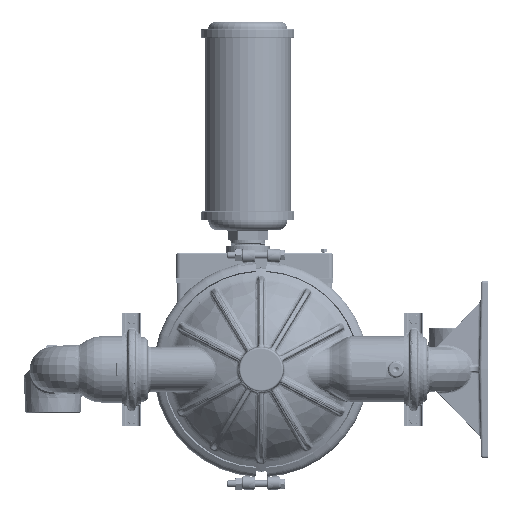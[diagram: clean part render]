
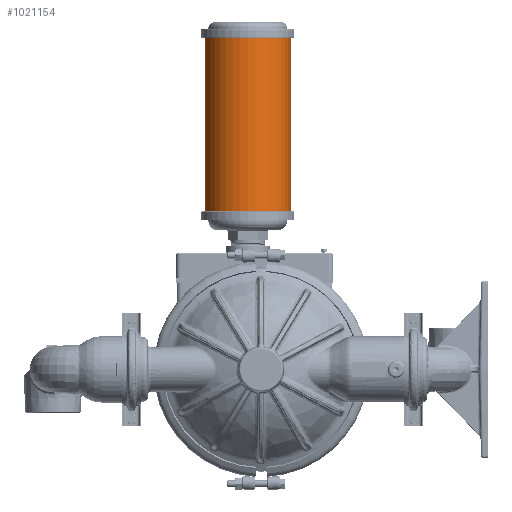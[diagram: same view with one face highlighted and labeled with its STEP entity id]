
A CAD part, left-side view. The second image highlights one B-rep face of the part: STEP entity #1021154.
In plain terms, the highlighted cylindrical face has radius 61.722 mm (diameter 123.444 mm), a partial arc.
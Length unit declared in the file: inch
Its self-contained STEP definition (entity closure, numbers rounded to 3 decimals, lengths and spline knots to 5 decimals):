
#705794=DIRECTION('',(0.,0.,1.));
#705795=VECTOR('',#705794,9.78);
#705796=CARTESIAN_POINT('',(0.,3.18,8.905));
#705797=LINE('',#705796,#705795);
#705798=DIRECTION('',(0.,0.,1.));
#705799=VECTOR('',#705798,9.78);
#705800=CARTESIAN_POINT('',(0.,-1.68,8.905));
#705801=LINE('',#705800,#705799);
#705802=CARTESIAN_POINT('',(0.,0.75,8.905));
#705803=DIRECTION('',(0.,0.,1.));
#705804=DIRECTION('',(0.,1.,0.));
#705805=AXIS2_PLACEMENT_3D('',#705802,#705803,#705804);
#705827=CARTESIAN_POINT('',(0.,0.75,18.685));
#705828=DIRECTION('',(0.,0.,1.));
#705829=DIRECTION('',(0.,1.,0.));
#705830=AXIS2_PLACEMENT_3D('',#705827,#705828,#705829);
#913392=CARTESIAN_POINT('',(0.,3.18,8.905));
#913393=CARTESIAN_POINT('',(0.,3.18,18.685));
#913394=VERTEX_POINT('',#913392);
#913395=VERTEX_POINT('',#913393);
#913396=CARTESIAN_POINT('',(0.,-1.68,8.905));
#913397=CARTESIAN_POINT('',(0.,-1.68,18.685));
#913398=VERTEX_POINT('',#913396);
#913399=VERTEX_POINT('',#913397);
#1021140=CARTESIAN_POINT('',(0.,0.75,20.1725));
#1021141=DIRECTION('',(0.,0.,-1.));
#1021142=DIRECTION('',(0.,-1.,0.));
#1021143=AXIS2_PLACEMENT_3D('',#1021140,#1021141,#1021142);
#1021144=CYLINDRICAL_SURFACE('',#1021143,2.43);
#1021146=ORIENTED_EDGE('',*,*,#1021145,.T.);
#1021148=ORIENTED_EDGE('',*,*,#1021147,.T.);
#1021150=ORIENTED_EDGE('',*,*,#1021149,.F.);
#1021151=ORIENTED_EDGE('',*,*,#1021121,.F.);
#1021152=EDGE_LOOP('',(#1021146,#1021148,#1021150,#1021151));
#1021153=FACE_OUTER_BOUND('',#1021152,.F.);
#705806=CIRCLE('',#705805,2.43);
#705831=CIRCLE('',#705830,2.43);
#1021121=EDGE_CURVE('',#913394,#913398,#705806,.T.);
#1021145=EDGE_CURVE('',#913394,#913395,#705797,.T.);
#1021147=EDGE_CURVE('',#913395,#913399,#705831,.T.);
#1021149=EDGE_CURVE('',#913398,#913399,#705801,.T.);
#1021154=ADVANCED_FACE('',(#1021153),#1021144,.T.);
